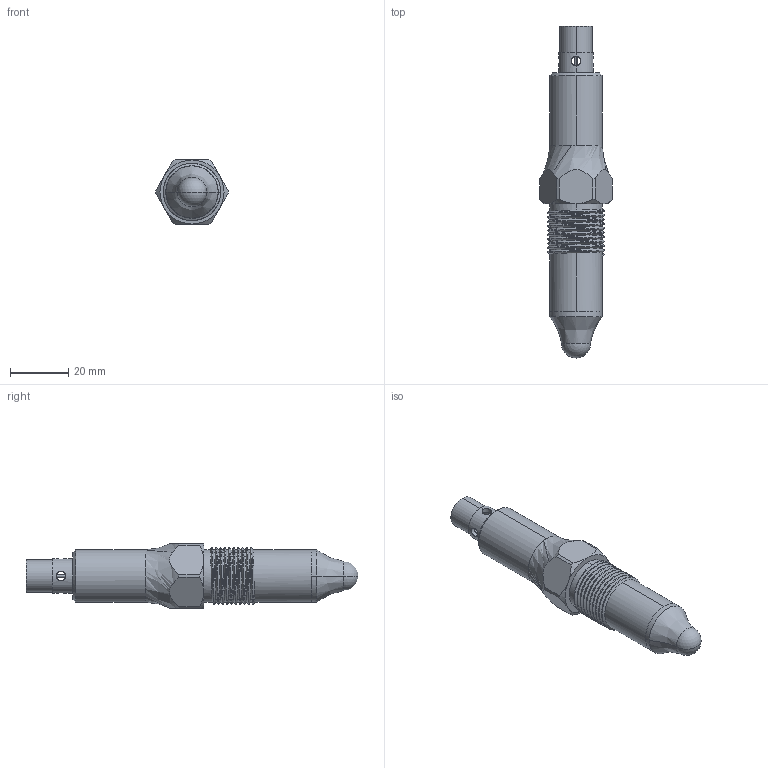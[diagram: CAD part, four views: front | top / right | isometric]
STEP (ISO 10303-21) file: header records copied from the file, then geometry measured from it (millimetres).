
FILE_DESCRIPTION (( 'STEP AP203' ), '1' );
FILE_NAME ('XR50梓袧.STEP', '2025-08-08T10:04:46', ( '' ), ( '' ), 'SwSTEP 2.0', 'SolidWorks 2024', '' );
FILE_SCHEMA (( 'CONFIG_CONTROL_DESIGN' ));
Length unit declared in the file: millimetre
Products named in the file (1): XR50标准
Bounding box: 24.83 x 114 x 22 mm (x, y, z)
Volume: 25926.5 mm3; surface area: 7726.3 mm2
Topology: 1 solids, 1 shells, 91 faces, 260 edges, 165 vertices
Faces by surface type: cylinder 47, plane 19, sphere 10, cone 8, bspline 7
Entity records: 4988 total; most frequent: CARTESIAN_POINT 2878, ORIENTED_EDGE 480, DIRECTION 360, EDGE_CURVE 240, VERTEX_POINT 155, AXIS2_PLACEMENT_3D 143, EDGE_LOOP 103, ADVANCED_FACE 91
